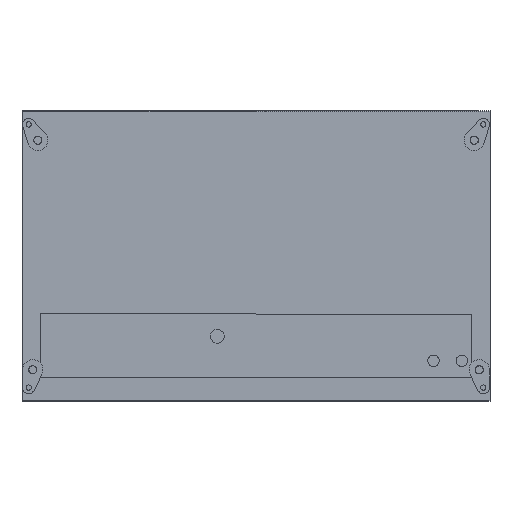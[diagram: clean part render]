
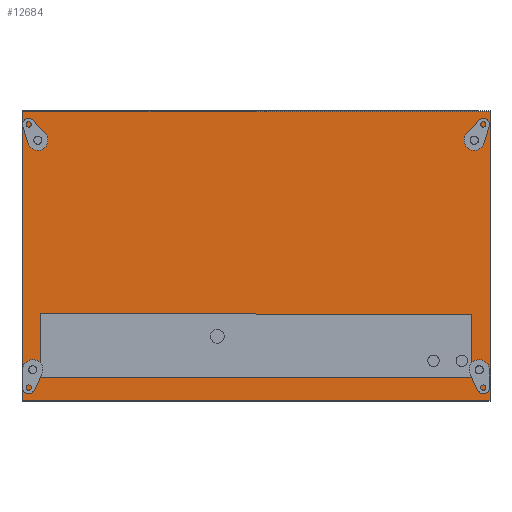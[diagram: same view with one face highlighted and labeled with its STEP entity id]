
A CAD part, front view. The second image highlights one B-rep face of the part: STEP entity #12684.
In plain terms, the highlighted planar face has unit normal (0, -1, 0).
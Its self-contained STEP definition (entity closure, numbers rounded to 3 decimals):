
#125 = VECTOR ( 'NONE', #9074, 1000. ) ;
#531 = CARTESIAN_POINT ( 'NONE',  ( -530.6, 0., -140.541 ) ) ;
#586 = LINE ( 'NONE', #19991, #25331 ) ;
#681 = DIRECTION ( 'NONE',  ( 1., 0., 0. ) ) ;
#739 = CARTESIAN_POINT ( 'NONE',  ( -2000.086, 0., -355.5 ) ) ;
#880 = EDGE_CURVE ( 'NONE', #7826, #15771, #19405, .T. ) ;
#914 = EDGE_LOOP ( 'NONE', ( #2660 ) ) ;
#1227 = LINE ( 'NONE', #26689, #18779 ) ;
#1363 = EDGE_CURVE ( 'NONE', #14456, #15771, #586, .T. ) ;
#1565 = CARTESIAN_POINT ( 'NONE',  ( -575., 0., 355.5 ) ) ;
#1654 = ORIENTED_EDGE ( 'NONE', *, *, #880, .F. ) ;
#2301 = DIRECTION ( 'NONE',  ( 0., -1., 0. ) ) ;
#2496 = DIRECTION ( 'NONE',  ( 0., 0., -1. ) ) ;
#2610 = ORIENTED_EDGE ( 'NONE', *, *, #3477, .F. ) ;
#2660 = ORIENTED_EDGE ( 'NONE', *, *, #13937, .F. ) ;
#2741 = EDGE_CURVE ( 'NONE', #4450, #25202, #23113, .T. ) ;
#2811 = EDGE_CURVE ( 'NONE', #8103, #8103, #18765, .T. ) ;
#2827 = FACE_BOUND ( 'NONE', #25178, .T. ) ;
#2963 = FACE_BOUND ( 'NONE', #914, .T. ) ;
#3468 = EDGE_LOOP ( 'NONE', ( #22478 ) ) ;
#3477 = EDGE_CURVE ( 'NONE', #25202, #26778, #22752, .T. ) ;
#3673 = DIRECTION ( 'NONE',  ( 0., 0., 1. ) ) ;
#3791 = VERTEX_POINT ( 'NONE', #20800 ) ;
#3922 = CARTESIAN_POINT ( 'NONE',  ( -548.6, 0., -288.984 ) ) ;
#4305 = ORIENTED_EDGE ( 'NONE', *, *, #26180, .F. ) ;
#4450 = VERTEX_POINT ( 'NONE', #11861 ) ;
#4552 = CIRCLE ( 'NONE', #8544, 9.5 ) ;
#4968 = VERTEX_POINT ( 'NONE', #1565 ) ;
#6752 = FACE_OUTER_BOUND ( 'NONE', #13935, .T. ) ;
#6764 = ORIENTED_EDGE ( 'NONE', *, *, #15812, .F. ) ;
#7305 = AXIS2_PLACEMENT_3D ( 'NONE', #21888, #13490, #13207 ) ;
#7826 = VERTEX_POINT ( 'NONE', #19052 ) ;
#8103 = VERTEX_POINT ( 'NONE', #12521 ) ;
#8491 = AXIS2_PLACEMENT_3D ( 'NONE', #739, #13386, #15033 ) ;
#8544 = AXIS2_PLACEMENT_3D ( 'NONE', #13397, #2301, #9129 ) ;
#8833 = FACE_BOUND ( 'NONE', #21596, .T. ) ;
#9074 = DIRECTION ( 'NONE',  ( 0., 0., 1. ) ) ;
#9129 = DIRECTION ( 'NONE',  ( 0., 0., -1. ) ) ;
#9448 = VECTOR ( 'NONE', #24741, 1000. ) ;
#9656 = EDGE_LOOP ( 'NONE', ( #16558 ) ) ;
#9904 = CARTESIAN_POINT ( 'NONE',  ( -575., 0., -355.5 ) ) ;
#10741 = VERTEX_POINT ( 'NONE', #14594 ) ;
#11260 = LINE ( 'NONE', #19681, #15678 ) ;
#11449 = PLANE ( 'NONE',  #8491 ) ;
#11861 = CARTESIAN_POINT ( 'NONE',  ( 530.6, 0., -299.45 ) ) ;
#11951 = VECTOR ( 'NONE', #2496, 1000. ) ;
#12083 = CIRCLE ( 'NONE', #13834, 9.5 ) ;
#12425 = AXIS2_PLACEMENT_3D ( 'NONE', #18115, #14099, #3673 ) ;
#12521 = CARTESIAN_POINT ( 'NONE',  ( 536.2, 0., 293.83 ) ) ;
#12528 = EDGE_CURVE ( 'NONE', #10741, #10741, #17272, .T. ) ;
#12684 = ADVANCED_FACE ( 'NONE', ( #2827, #13533, #8833, #13109, #2963, #6752 ), #11449, .T. ) ;
#13109 = FACE_BOUND ( 'NONE', #3468, .T. ) ;
#13207 = DIRECTION ( 'NONE',  ( 0., 0., 1. ) ) ;
#13386 = DIRECTION ( 'NONE',  ( 0., -1., 0. ) ) ;
#13397 = CARTESIAN_POINT ( 'NONE',  ( -548.6, 0., -279.484 ) ) ;
#13490 = DIRECTION ( 'NONE',  ( 0., -1., 0. ) ) ;
#13533 = FACE_BOUND ( 'NONE', #9656, .T. ) ;
#13782 = CARTESIAN_POINT ( 'NONE',  ( -530.6, 0., -299.45 ) ) ;
#13834 = AXIS2_PLACEMENT_3D ( 'NONE', #13892, #26442, #24099 ) ;
#13892 = CARTESIAN_POINT ( 'NONE',  ( -536.2, 0., 284.33 ) ) ;
#13935 = EDGE_LOOP ( 'NONE', ( #6764, #22995, #26965, #1654 ) ) ;
#13937 = EDGE_CURVE ( 'NONE', #3791, #3791, #12083, .T. ) ;
#14099 = DIRECTION ( 'NONE',  ( 0., -1., 0. ) ) ;
#14296 = VECTOR ( 'NONE', #19954, 1000. ) ;
#14456 = VERTEX_POINT ( 'NONE', #9904 ) ;
#14594 = CARTESIAN_POINT ( 'NONE',  ( 548.6, 0., -269.984 ) ) ;
#15033 = DIRECTION ( 'NONE',  ( 0., 0., -1. ) ) ;
#15678 = VECTOR ( 'NONE', #681, 1000. ) ;
#15771 = VERTEX_POINT ( 'NONE', #19531 ) ;
#15812 = EDGE_CURVE ( 'NONE', #4968, #7826, #11260, .T. ) ;
#15919 = EDGE_CURVE ( 'NONE', #26778, #23564, #1227, .T. ) ;
#16056 = ORIENTED_EDGE ( 'NONE', *, *, #2741, .F. ) ;
#16558 = ORIENTED_EDGE ( 'NONE', *, *, #2811, .F. ) ;
#16728 = LINE ( 'NONE', #18685, #9448 ) ;
#17272 = CIRCLE ( 'NONE', #12425, 9.5 ) ;
#17275 = CARTESIAN_POINT ( 'NONE',  ( 530.6, 0., -144.5 ) ) ;
#17459 = CARTESIAN_POINT ( 'NONE',  ( 575., 0., -355.5 ) ) ;
#17494 = DIRECTION ( 'NONE',  ( 1., 0., 0. ) ) ;
#18115 = CARTESIAN_POINT ( 'NONE',  ( 548.6, 0., -279.484 ) ) ;
#18386 = VECTOR ( 'NONE', #24828, 1000. ) ;
#18644 = CARTESIAN_POINT ( 'NONE',  ( -1999.263, 0., -135.061 ) ) ;
#18685 = CARTESIAN_POINT ( 'NONE',  ( -2000.086, 0., -299.45 ) ) ;
#18765 = CIRCLE ( 'NONE', #7305, 9.5 ) ;
#18779 = VECTOR ( 'NONE', #20342, 1000. ) ;
#18877 = EDGE_CURVE ( 'NONE', #4968, #14456, #23116, .T. ) ;
#19052 = CARTESIAN_POINT ( 'NONE',  ( 575., 0., 355.5 ) ) ;
#19405 = LINE ( 'NONE', #17459, #14296 ) ;
#19531 = CARTESIAN_POINT ( 'NONE',  ( 575., 0., -355.5 ) ) ;
#19681 = CARTESIAN_POINT ( 'NONE',  ( -2000.086, 0., 355.5 ) ) ;
#19954 = DIRECTION ( 'NONE',  ( 0., 0., -1. ) ) ;
#19965 = CARTESIAN_POINT ( 'NONE',  ( 530.6, 0., -355.5 ) ) ;
#19991 = CARTESIAN_POINT ( 'NONE',  ( -2000.086, 0., -355.5 ) ) ;
#20342 = DIRECTION ( 'NONE',  ( 0., 0., -1. ) ) ;
#20800 = CARTESIAN_POINT ( 'NONE',  ( -536.2, 0., 274.83 ) ) ;
#20954 = ORIENTED_EDGE ( 'NONE', *, *, #15919, .F. ) ;
#21596 = EDGE_LOOP ( 'NONE', ( #27246 ) ) ;
#21888 = CARTESIAN_POINT ( 'NONE',  ( 536.2, 0., 284.33 ) ) ;
#22478 = ORIENTED_EDGE ( 'NONE', *, *, #26287, .F. ) ;
#22752 = LINE ( 'NONE', #18644, #18386 ) ;
#22852 = VERTEX_POINT ( 'NONE', #3922 ) ;
#22995 = ORIENTED_EDGE ( 'NONE', *, *, #18877, .T. ) ;
#23113 = LINE ( 'NONE', #19965, #125 ) ;
#23116 = LINE ( 'NONE', #25203, #11951 ) ;
#23564 = VERTEX_POINT ( 'NONE', #13782 ) ;
#24099 = DIRECTION ( 'NONE',  ( 0., 0., -1. ) ) ;
#24741 = DIRECTION ( 'NONE',  ( 1., 0., 0. ) ) ;
#24828 = DIRECTION ( 'NONE',  ( -1., 0., 0.004 ) ) ;
#25178 = EDGE_LOOP ( 'NONE', ( #20954, #2610, #16056, #4305 ) ) ;
#25202 = VERTEX_POINT ( 'NONE', #17275 ) ;
#25203 = CARTESIAN_POINT ( 'NONE',  ( -575., 0., -355.5 ) ) ;
#25331 = VECTOR ( 'NONE', #17494, 1000. ) ;
#26180 = EDGE_CURVE ( 'NONE', #23564, #4450, #16728, .T. ) ;
#26287 = EDGE_CURVE ( 'NONE', #22852, #22852, #4552, .T. ) ;
#26442 = DIRECTION ( 'NONE',  ( 0., -1., 0. ) ) ;
#26689 = CARTESIAN_POINT ( 'NONE',  ( -530.6, 0., -355.5 ) ) ;
#26778 = VERTEX_POINT ( 'NONE', #531 ) ;
#26965 = ORIENTED_EDGE ( 'NONE', *, *, #1363, .T. ) ;
#27246 = ORIENTED_EDGE ( 'NONE', *, *, #12528, .F. ) ;
